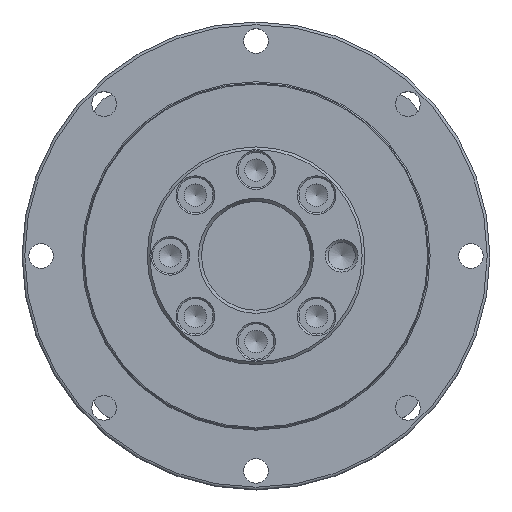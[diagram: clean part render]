
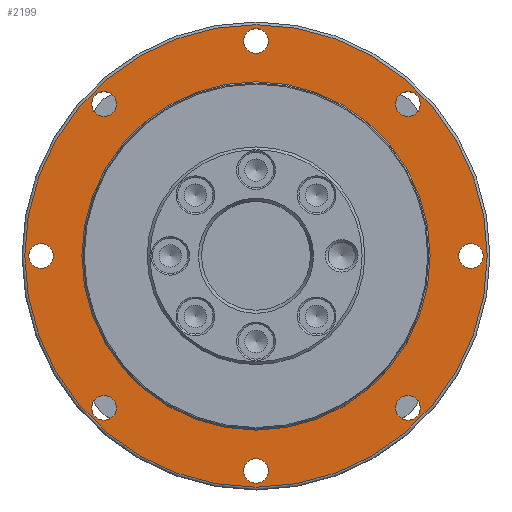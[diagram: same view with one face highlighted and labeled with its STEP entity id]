
A CAD part, top view. The second image highlights one B-rep face of the part: STEP entity #2199.
In plain terms, the highlighted planar face has unit normal (0, 0, 1).
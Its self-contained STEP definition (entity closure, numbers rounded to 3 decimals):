
#2077=CARTESIAN_POINT('',(42.5,0.,6.));
#2078=VERTEX_POINT('',#2077);
#2079=CARTESIAN_POINT('',(0.0,0.0,6.));
#2080=DIRECTION('',(0.0,0.0,-1.0));
#2081=DIRECTION('',(-1.0,0.0,0.0));
#2082=AXIS2_PLACEMENT_3D('',#2079,#2080,#2081);
#2083=CIRCLE('',#2082,42.5);
#2084=EDGE_CURVE('',#2078,#2078,#2083,.T.);
#2092=CARTESIAN_POINT('',(0.0,0.0,6.));
#2093=DIRECTION('',(0.0,0.0,-1.0));
#2094=DIRECTION('',(-1.0,0.0,0.0));
#2095=AXIS2_PLACEMENT_3D('',#2092,#2093,#2094);
#2096=PLANE('',#2095);
#2097=ORIENTED_EDGE('',*,*,#2084,.F.);
#2098=EDGE_LOOP('',(#2097));
#2099=FACE_OUTER_BOUND('',#2098,.T.);
#2100=CARTESIAN_POINT('',(32.0,0.,6.));
#2101=VERTEX_POINT('',#2100);
#2102=CARTESIAN_POINT('',(0.0,0.0,6.));
#2103=DIRECTION('',(0.0,0.0,-1.0));
#2104=DIRECTION('',(-1.0,0.0,0.0));
#2105=AXIS2_PLACEMENT_3D('',#2102,#2103,#2104);
#2106=CIRCLE('',#2105,32.0);
#2107=EDGE_CURVE('',#2101,#2101,#2106,.T.);
#2108=ORIENTED_EDGE('',*,*,#2107,.T.);
#2109=EDGE_LOOP('',(#2108));
#2110=FACE_BOUND('',#2109,.T.);
#2111=CARTESIAN_POINT('',(2.25,39.5,6.));
#2112=VERTEX_POINT('',#2111);
#2113=CARTESIAN_POINT('',(0.0,39.5,6.));
#2114=DIRECTION('',(0.0,0.0,-1.0));
#2115=DIRECTION('',(-1.0,0.0,0.0));
#2116=AXIS2_PLACEMENT_3D('',#2113,#2114,#2115);
#2117=CIRCLE('',#2116,2.25);
#2118=EDGE_CURVE('',#2112,#2112,#2117,.T.);
#2119=ORIENTED_EDGE('',*,*,#2118,.T.);
#2120=EDGE_LOOP('',(#2119));
#2121=FACE_BOUND('',#2120,.T.);
#2122=CARTESIAN_POINT('',(-26.34,29.522,6.));
#2123=VERTEX_POINT('',#2122);
#2124=CARTESIAN_POINT('',(-27.931,27.931,6.));
#2125=DIRECTION('',(0.0,0.0,-1.0));
#2126=DIRECTION('',(-0.707,-0.707,0.0));
#2127=AXIS2_PLACEMENT_3D('',#2124,#2125,#2126);
#2128=CIRCLE('',#2127,2.25);
#2129=EDGE_CURVE('',#2123,#2123,#2128,.T.);
#2130=ORIENTED_EDGE('',*,*,#2129,.T.);
#2131=EDGE_LOOP('',(#2130));
#2132=FACE_BOUND('',#2131,.T.);
#2133=CARTESIAN_POINT('',(-39.5,2.25,6.));
#2134=VERTEX_POINT('',#2133);
#2135=CARTESIAN_POINT('',(-39.5,0.0,6.));
#2136=DIRECTION('',(0.0,0.0,-1.0));
#2137=DIRECTION('',(0.0,-1.0,0.0));
#2138=AXIS2_PLACEMENT_3D('',#2135,#2136,#2137);
#2139=CIRCLE('',#2138,2.25);
#2140=EDGE_CURVE('',#2134,#2134,#2139,.T.);
#2141=ORIENTED_EDGE('',*,*,#2140,.T.);
#2142=EDGE_LOOP('',(#2141));
#2143=FACE_BOUND('',#2142,.T.);
#2144=CARTESIAN_POINT('',(-29.522,-26.34,6.));
#2145=VERTEX_POINT('',#2144);
#2146=CARTESIAN_POINT('',(-27.931,-27.931,6.));
#2147=DIRECTION('',(0.0,0.0,-1.0));
#2148=DIRECTION('',(0.707,-0.707,0.0));
#2149=AXIS2_PLACEMENT_3D('',#2146,#2147,#2148);
#2150=CIRCLE('',#2149,2.25);
#2151=EDGE_CURVE('',#2145,#2145,#2150,.T.);
#2152=ORIENTED_EDGE('',*,*,#2151,.T.);
#2153=EDGE_LOOP('',(#2152));
#2154=FACE_BOUND('',#2153,.T.);
#2155=CARTESIAN_POINT('',(-2.25,-39.5,6.));
#2156=VERTEX_POINT('',#2155);
#2157=CARTESIAN_POINT('',(0.,-39.5,6.));
#2158=DIRECTION('',(0.0,0.0,-1.0));
#2159=DIRECTION('',(1.0,0.0,0.0));
#2160=AXIS2_PLACEMENT_3D('',#2157,#2158,#2159);
#2161=CIRCLE('',#2160,2.25);
#2162=EDGE_CURVE('',#2156,#2156,#2161,.T.);
#2163=ORIENTED_EDGE('',*,*,#2162,.T.);
#2164=EDGE_LOOP('',(#2163));
#2165=FACE_BOUND('',#2164,.T.);
#2166=CARTESIAN_POINT('',(26.34,-29.522,6.));
#2167=VERTEX_POINT('',#2166);
#2168=CARTESIAN_POINT('',(27.931,-27.931,6.));
#2169=DIRECTION('',(0.0,0.0,-1.0));
#2170=DIRECTION('',(0.707,0.707,0.0));
#2171=AXIS2_PLACEMENT_3D('',#2168,#2169,#2170);
#2172=CIRCLE('',#2171,2.25);
#2173=EDGE_CURVE('',#2167,#2167,#2172,.T.);
#2174=ORIENTED_EDGE('',*,*,#2173,.T.);
#2175=EDGE_LOOP('',(#2174));
#2176=FACE_BOUND('',#2175,.T.);
#2177=CARTESIAN_POINT('',(39.5,-2.25,6.));
#2178=VERTEX_POINT('',#2177);
#2179=CARTESIAN_POINT('',(39.5,0.,6.));
#2180=DIRECTION('',(0.0,0.0,-1.0));
#2181=DIRECTION('',(0.0,1.0,0.0));
#2182=AXIS2_PLACEMENT_3D('',#2179,#2180,#2181);
#2183=CIRCLE('',#2182,2.25);
#2184=EDGE_CURVE('',#2178,#2178,#2183,.T.);
#2185=ORIENTED_EDGE('',*,*,#2184,.T.);
#2186=EDGE_LOOP('',(#2185));
#2187=FACE_BOUND('',#2186,.T.);
#2188=CARTESIAN_POINT('',(29.522,26.34,6.));
#2189=VERTEX_POINT('',#2188);
#2190=CARTESIAN_POINT('',(27.931,27.931,6.));
#2191=DIRECTION('',(0.0,0.0,-1.0));
#2192=DIRECTION('',(-0.707,0.707,0.0));
#2193=AXIS2_PLACEMENT_3D('',#2190,#2191,#2192);
#2194=CIRCLE('',#2193,2.25);
#2195=EDGE_CURVE('',#2189,#2189,#2194,.T.);
#2196=ORIENTED_EDGE('',*,*,#2195,.T.);
#2197=EDGE_LOOP('',(#2196));
#2198=FACE_BOUND('',#2197,.T.);
#2199=ADVANCED_FACE('',(#2099,#2110,#2121,#2132,#2143,#2154,#2165,#2176,#2187,#2198),#2096,.F.);
